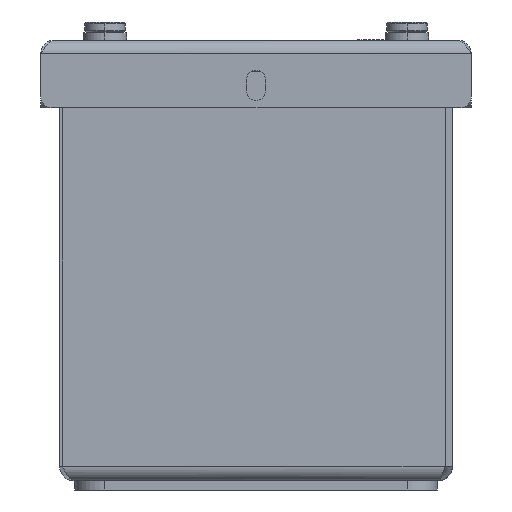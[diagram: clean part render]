
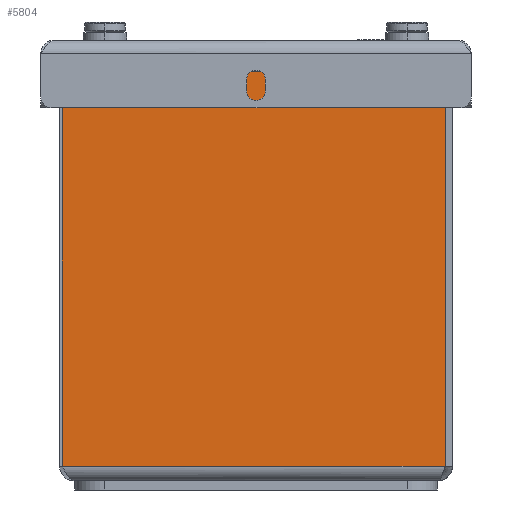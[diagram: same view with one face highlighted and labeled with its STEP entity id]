
A CAD part, left-side view. The second image highlights one B-rep face of the part: STEP entity #5804.
In plain terms, the highlighted planar face has unit normal (-1, 0, 0).
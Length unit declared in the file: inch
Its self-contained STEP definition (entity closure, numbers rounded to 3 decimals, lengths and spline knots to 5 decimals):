
#274=DIRECTION('',(0.,-1.,0.));
#275=VECTOR('',#274,3.168);
#276=CARTESIAN_POINT('',(0.,3.228,0.12));
#277=LINE('',#276,#275);
#1734=DIRECTION('',(0.,-1.,0.));
#1735=VECTOR('',#1734,2.47175);
#1736=CARTESIAN_POINT('',(0.,3.228,3.388));
#1737=LINE('',#1736,#1735);
#1826=DIRECTION('',(0.,0.,1.));
#1827=VECTOR('',#1826,3.268);
#1828=CARTESIAN_POINT('',(0.,3.228,0.12));
#1829=LINE('',#1828,#1827);
#1833=DIRECTION('',(0.,0.,1.));
#1834=VECTOR('',#1833,0.042);
#1835=CARTESIAN_POINT('',(0.,0.75625,3.388));
#1836=LINE('',#1835,#1834);
#1840=DIRECTION('',(0.,1.,0.));
#1841=VECTOR('',#1840,0.65125);
#1842=CARTESIAN_POINT('',(0.,0.105,3.43));
#1843=LINE('',#1842,#1841);
#1847=CARTESIAN_POINT('',(0.,0.105,3.385));
#1848=DIRECTION('',(-1.,0.,0.));
#1849=DIRECTION('',(0.,-1.,0.));
#1850=AXIS2_PLACEMENT_3D('',#1847,#1848,#1849);
#1897=DIRECTION('',(0.,0.,1.));
#1898=VECTOR('',#1897,3.265);
#1899=CARTESIAN_POINT('',(0.,0.06,0.12));
#1900=LINE('',#1899,#1898);
#3584=CARTESIAN_POINT('',(0.,0.75625,3.388));
#3585=CARTESIAN_POINT('',(0.,0.75625,3.43));
#3586=VERTEX_POINT('',#3584);
#3587=VERTEX_POINT('',#3585);
#3712=CARTESIAN_POINT('',(0.,3.228,0.12));
#3713=CARTESIAN_POINT('',(0.,3.228,3.388));
#3714=VERTEX_POINT('',#3712);
#3715=VERTEX_POINT('',#3713);
#3776=CARTESIAN_POINT('',(0.,0.06,3.385));
#3777=CARTESIAN_POINT('',(0.,0.105,3.43));
#3778=VERTEX_POINT('',#3776);
#3779=VERTEX_POINT('',#3777);
#3784=CARTESIAN_POINT('',(0.,0.06,0.12));
#3785=VERTEX_POINT('',#3784);
#5786=CARTESIAN_POINT('',(0.,3.25,0.));
#5787=DIRECTION('',(-1.,0.,0.));
#5788=DIRECTION('',(0.,-1.,0.));
#5789=AXIS2_PLACEMENT_3D('',#5786,#5787,#5788);
#5790=PLANE('',#5789);
#5791=ORIENTED_EDGE('',*,*,#5339,.T.);
#5792=ORIENTED_EDGE('',*,*,#5776,.T.);
#5794=ORIENTED_EDGE('',*,*,#5793,.T.);
#5796=ORIENTED_EDGE('',*,*,#5795,.F.);
#5798=ORIENTED_EDGE('',*,*,#5797,.F.);
#5800=ORIENTED_EDGE('',*,*,#5799,.F.);
#5801=ORIENTED_EDGE('',*,*,#4182,.F.);
#5802=EDGE_LOOP('',(#5791,#5792,#5794,#5796,#5798,#5800,#5801));
#5803=FACE_OUTER_BOUND('',#5802,.F.);
#1851=CIRCLE('',#1850,0.045);
#4182=EDGE_CURVE('',#3714,#3785,#277,.T.);
#5339=EDGE_CURVE('',#3714,#3715,#1829,.T.);
#5776=EDGE_CURVE('',#3715,#3586,#1737,.T.);
#5793=EDGE_CURVE('',#3586,#3587,#1836,.T.);
#5795=EDGE_CURVE('',#3779,#3587,#1843,.T.);
#5797=EDGE_CURVE('',#3778,#3779,#1851,.T.);
#5799=EDGE_CURVE('',#3785,#3778,#1900,.T.);
#5804=ADVANCED_FACE('',(#5803),#5790,.T.);
